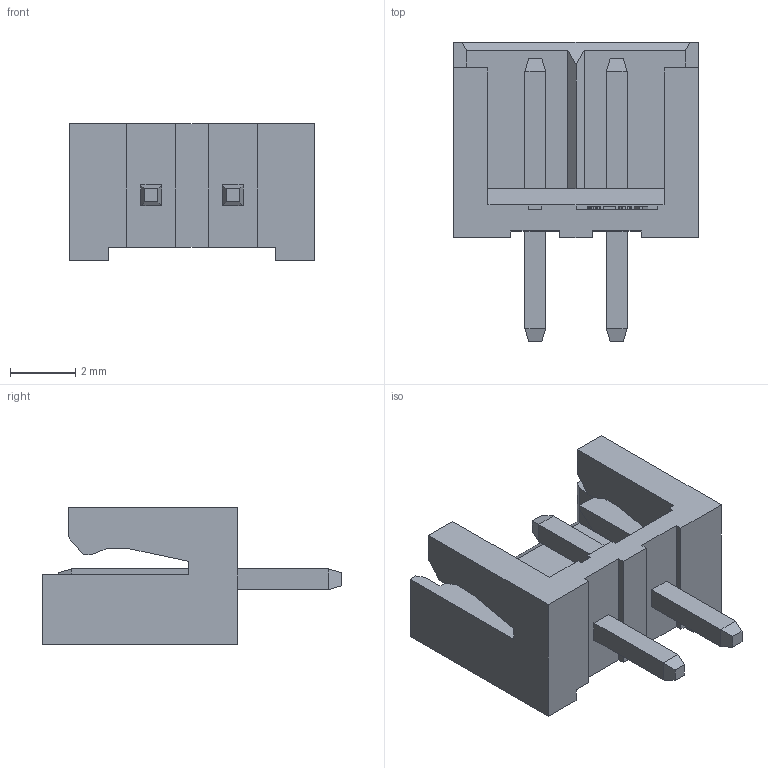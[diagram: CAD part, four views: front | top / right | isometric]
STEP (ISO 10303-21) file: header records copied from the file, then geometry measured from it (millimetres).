
FILE_DESCRIPTION((''),'2;1');
FILE_NAME('S-87343-02XX','2015-10-07T',('k49820'),(''),'PRO/ENGINEER BY PARAMETRIC TECHNOLOGY CORPORATION, 2009440','PRO/ENGINEER BY PARAMETRIC TECHNOLOGY CORPORATION, 2009440','');
FILE_SCHEMA(('CONFIG_CONTROL_DESIGN'));
Length unit declared in the file: millimetre
Products named in the file (1): S-87343-02XX
Bounding box: 7.5 x 9.2 x 4.2 mm (x, y, z)
Volume: 81.7 mm3; surface area: 280.1 mm2
Topology: 1 solids, 1 shells, 222 faces, 611 edges, 400 vertices
Faces by surface type: plane 222
Entity records: 6917 total; most frequent: CARTESIAN_POINT 1233, ORIENTED_EDGE 1222, DIRECTION 1055, VECTOR 611, LINE 611, EDGE_CURVE 611, VERTEX_POINT 400, EDGE_LOOP 231
